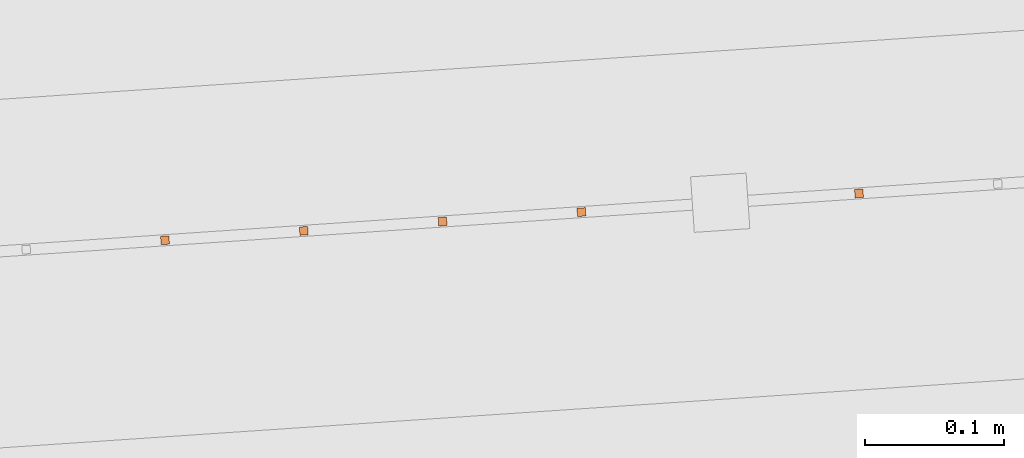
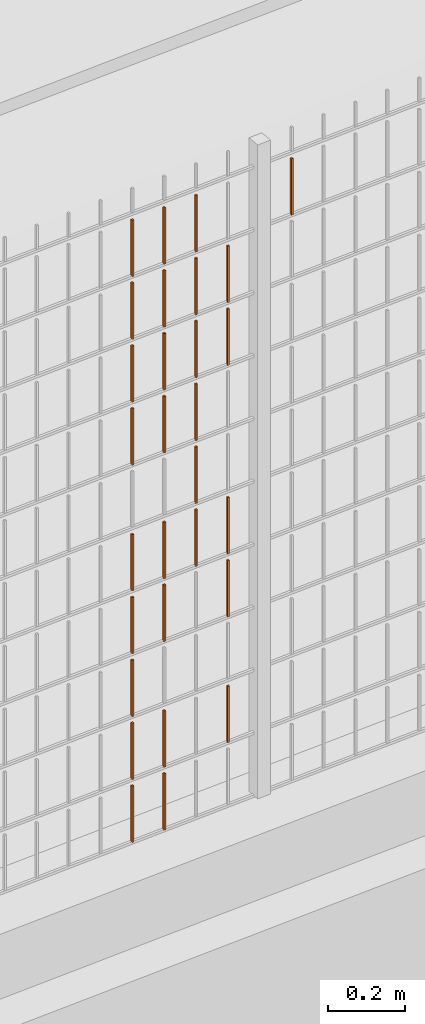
# One storey, part 270 of 1809: 29 proxies, 1 element without a shape of its own.
"""IFC2X3 building model written with IfcOpenShell, lengths in millimetres."""

from ifc_helpers import new_model, entity, si_unit, converted_unit, derived_unit, money_unit, direction, frame, origin_with_axes, place, context, subcontext, project, spatial, faceted_brep, source, transform, mapped, material, type_object, element, aggregate, save


model = new_model("IFC2X3")

# Units and contexts
model_context = context("Model", 3, precision=0.01, world=origin_with_axes(), true_north=direction((0.0, 1.0)))
body_context = subcontext(model_context, "Body", "Model", "MODEL_VIEW")
ifc_project = project(units=[si_unit("LENGTHUNIT", "METRE", prefix="MILLI"), si_unit("AREAUNIT", "SQUARE_METRE"), si_unit("VOLUMEUNIT", "CUBIC_METRE"), converted_unit("PLANEANGLEUNIT", "DEGREE", entity("IfcPlaneAngleMeasure", 0.0174532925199), si_unit("PLANEANGLEUNIT", "RADIAN"), dimensions=[0, 0, 0, 0, 0, 0, 0]), si_unit("SOLIDANGLEUNIT", "STERADIAN"), money_unit("EUR"), converted_unit("TIMEUNIT", "Year", entity("IfcTimeMeasure", 31556926.0), si_unit("TIMEUNIT", "SECOND"), dimensions=[0, 0, 1, 0, 0, 0, 0]), si_unit("MASSUNIT", "GRAM", prefix="KILO"), si_unit("THERMODYNAMICTEMPERATUREUNIT", "DEGREE_CELSIUS"), si_unit("LUMINOUSINTENSITYUNIT", "LUMEN"), si_unit("ENERGYUNIT", "JOULE", prefix="MEGA"), derived_unit("THERMALCONDUCTANCEUNIT", [(si_unit("POWERUNIT", "WATT"), 1), (si_unit("LENGTHUNIT", "METRE"), -1), (si_unit("THERMODYNAMICTEMPERATUREUNIT", "KELVIN"), -1)]), derived_unit("SPECIFICHEATCAPACITYUNIT", [(si_unit("ENERGYUNIT", "JOULE"), 1), (si_unit("MASSUNIT", "GRAM", prefix="KILO"), -1), (si_unit("THERMODYNAMICTEMPERATUREUNIT", "KELVIN"), -1)]), derived_unit("MASSDENSITYUNIT", [(si_unit("MASSUNIT", "GRAM", prefix="KILO"), 1), (si_unit("VOLUMEUNIT", "CUBIC_METRE"), -1)])], contexts=[model_context])

# Site, building, storey
site_placement = place(None, origin_with_axes())
site = spatial("IfcSite", under=ifc_project, at=site_placement, Name="Politse- ja Piirivalveameti ning Päästeameti ühishoone", CompositionType="ELEMENT")
building_placement = place(site_placement, origin_with_axes())
building = spatial("IfcBuilding", under=site, at=building_placement, Name="Politse- ja Piirivalveameti ning Päästeameti ühishoone", CompositionType="ELEMENT")
storey_placement = place(building_placement, origin_with_axes())
storey = spatial("IfcBuildingStorey", under=building, at=storey_placement, Name="Esimene korrus", CompositionType="ELEMENT", Elevation=0.0)

# Proxies
building_element_proxy_type_1 = type_object("IfcBuildingElementProxyType", Name="Railing Type", PredefinedType="NOTDEFINED")
proxy_1_placement = place(storey_placement, frame((89252.001212, -29183.4766571, 203.661247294), z_axis=(0.0, 0.0, 1.0), x_axis=(1.0, 0.0, 0.0)))
proxy_1 = element("IfcBuildingElementProxy", 1, at=proxy_1_placement, inside=storey, type_object=building_element_proxy_type_1, Name="PIIRDEAED")
ifc_material = material(Name="ET-03_Raud")
building_element_proxy_type_2 = type_object("IfcBuildingElementProxyType", Name="IfcBuildingElementProxy", PredefinedType="NOTDEFINED")
shared_shape_1 = source(origin_with_axes(), body_context, "Body", "Brep", [
    faceted_brep([(3.0, 3.0, -0.000752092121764), (-3.0, 3.0, -0.000752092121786), (-3.0, 3.0, 179.99926046), (3.0, 3.0, 179.99926046), (3.0, -3.0, 0.000752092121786), (-3.0, -3.0, 0.000752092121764), (-3.0, -3.0, 180.000764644), (3.0, -3.0, 180.000764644)], [[[0, 1, 2, 3]], [[0, 4, 5, 1]], [[1, 5, 6, 2]], [[3, 2, 6, 7]], [[4, 0, 3, 7]], [[5, 4, 7, 6]]]),
])
proxy_2_placement = place(proxy_1_placement, frame((-55101.1317641, -21019.6482681, 13.389199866), z_axis=(0.0, 0.0, 1.0), x_axis=(1.0, 0.0, 0.0)))
proxy_2 = element("IfcBuildingElementProxy", 2, at=proxy_2_placement, type_object=building_element_proxy_type_2, material=ifc_material, Name="BALUSTER - 001", context=body_context, shape_type="MappedRepresentation", body=[
    mapped(shared_shape_1, transform((0.0, 0.0, 0.0), x_axis=(-0.0673926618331, 0.997726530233, 0.0), y_axis=(-0.997726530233, -0.0673926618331, 0.0), z_axis=(0.0, 0.0, 1.0))),
])
proxy_3_placement = place(proxy_1_placement, frame((-55101.1317641, -21019.6482681, 213.389199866), z_axis=(0.0, 0.0, 1.0), x_axis=(1.0, 0.0, 0.0)))
proxy_3 = element("IfcBuildingElementProxy", 3, at=proxy_3_placement, type_object=building_element_proxy_type_2, material=ifc_material, Name="BALUSTER - 001", context=body_context, shape_type="MappedRepresentation", body=[
    mapped(shared_shape_1, transform((0.0, 0.0, 0.0), x_axis=(-0.0673926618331, 0.997726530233, 0.0), y_axis=(-0.997726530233, -0.0673926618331, 0.0), z_axis=(0.0, 0.0, 1.0))),
])
shared_shape_2 = source(origin_with_axes(), body_context, "Body", "Brep", [
    faceted_brep([(3.0, 3.0, -0.000752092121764), (-3.0, 3.0, -0.000752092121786), (-3.0, 3.0, 179.99926046), (3.0, 3.0, 179.99926046), (3.0, -3.0, 0.000752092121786), (-3.0, -3.0, 0.000752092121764), (-3.0, -3.0, 180.000764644), (3.0, -3.0, 180.000764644)], [[[0, 1, 2, 3]], [[0, 4, 5, 1]], [[1, 5, 6, 2]], [[3, 2, 6, 7]], [[4, 0, 3, 7]], [[5, 4, 7, 6]]]),
])
proxy_4_placement = place(proxy_1_placement, frame((-55101.1317641, -21019.6482681, 613.389199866), z_axis=(0.0, 0.0, 1.0), x_axis=(1.0, 0.0, 0.0)))
proxy_4 = element("IfcBuildingElementProxy", 4, at=proxy_4_placement, type_object=building_element_proxy_type_2, material=ifc_material, Name="BALUSTER - 001", context=body_context, shape_type="MappedRepresentation", body=[
    mapped(shared_shape_2, transform((0.0, 0.0, 0.0), x_axis=(-0.0673926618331, 0.997726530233, 0.0), y_axis=(-0.997726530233, -0.0673926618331, 0.0), z_axis=(0.0, 0.0, 1.0))),
])
proxy_5_placement = place(proxy_1_placement, frame((-55101.1317641, -21019.6482681, 813.389199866), z_axis=(0.0, 0.0, 1.0), x_axis=(1.0, 0.0, 0.0)))
proxy_5 = element("IfcBuildingElementProxy", 5, at=proxy_5_placement, type_object=building_element_proxy_type_2, material=ifc_material, Name="BALUSTER - 001", context=body_context, shape_type="MappedRepresentation", body=[
    mapped(shared_shape_2, transform((0.0, 0.0, 0.0), x_axis=(-0.0673926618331, 0.997726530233, 0.0), y_axis=(-0.997726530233, -0.0673926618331, 0.0), z_axis=(0.0, 0.0, 1.0))),
])
shared_shape_3 = source(origin_with_axes(), body_context, "Body", "Brep", [
    faceted_brep([(3.0, 3.0, -0.000752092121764), (-3.0, 3.0, -0.000752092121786), (-3.0, 3.0, 179.99926046), (3.0, 3.0, 179.99926046), (3.0, -3.0, 0.000752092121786), (-3.0, -3.0, 0.000752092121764), (-3.0, -3.0, 180.000764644), (3.0, -3.0, 180.000764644)], [[[0, 1, 2, 3]], [[0, 4, 5, 1]], [[1, 5, 6, 2]], [[3, 2, 6, 7]], [[4, 0, 3, 7]], [[5, 4, 7, 6]]]),
])
proxy_6_placement = place(proxy_1_placement, frame((-55101.1317641, -21019.6482681, 413.389199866), z_axis=(0.0, 0.0, 1.0), x_axis=(1.0, 0.0, 0.0)))
proxy_6 = element("IfcBuildingElementProxy", 6, at=proxy_6_placement, type_object=building_element_proxy_type_2, material=ifc_material, Name="BALUSTER - 001", context=body_context, shape_type="MappedRepresentation", body=[
    mapped(shared_shape_3, transform((0.0, 0.0, 0.0), x_axis=(-0.0673926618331, 0.997726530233, 0.0), y_axis=(-0.997726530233, -0.0673926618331, 0.0), z_axis=(0.0, 0.0, 1.0))),
])
shared_shape_4 = source(origin_with_axes(), body_context, "Body", "Brep", [
    faceted_brep([(3.0, 3.0, -0.000752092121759), (-3.0, 3.0, -0.00075209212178), (-3.0, 3.0, 179.99926046), (3.0, 3.0, 179.99926046), (3.0, -3.0, 0.00075209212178), (-3.0, -3.0, 0.000752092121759), (-3.0, -3.0, 180.000764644), (3.0, -3.0, 180.000764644)], [[[0, 1, 2, 3]], [[0, 4, 5, 1]], [[1, 5, 6, 2]], [[3, 2, 6, 7]], [[4, 0, 3, 7]], [[5, 4, 7, 6]]]),
])
proxy_7_placement = place(proxy_1_placement, frame((-55001.359111, -21012.9090019, 1213.4142696), z_axis=(0.0, 0.0, 1.0), x_axis=(1.0, 0.0, 0.0)))
proxy_7 = element("IfcBuildingElementProxy", 7, at=proxy_7_placement, type_object=building_element_proxy_type_2, material=ifc_material, Name="BALUSTER - 001", context=body_context, shape_type="MappedRepresentation", body=[
    mapped(shared_shape_4, transform((0.0, 0.0, 0.0), x_axis=(-0.0673926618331, 0.997726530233, 0.0), y_axis=(-0.997726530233, -0.0673926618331, 0.0), z_axis=(0.0, 0.0, 1.0))),
])
shared_shape_5 = source(origin_with_axes(), body_context, "Body", "Brep", [
    faceted_brep([(3.0, 3.0, -0.000752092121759), (-3.0, 3.0, -0.00075209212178), (-3.0, 3.0, 179.99926046), (3.0, 3.0, 179.99926046), (3.0, -3.0, 0.00075209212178), (-3.0, -3.0, 0.000752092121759), (-3.0, -3.0, 180.000764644), (3.0, -3.0, 180.000764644)], [[[0, 1, 2, 3]], [[0, 4, 5, 1]], [[1, 5, 6, 2]], [[3, 2, 6, 7]], [[4, 0, 3, 7]], [[5, 4, 7, 6]]]),
])
proxy_8_placement = place(proxy_1_placement, frame((-55101.1317641, -21019.6482681, 1213.38919987), z_axis=(0.0, 0.0, 1.0), x_axis=(1.0, 0.0, 0.0)))
proxy_8 = element("IfcBuildingElementProxy", 8, at=proxy_8_placement, type_object=building_element_proxy_type_2, material=ifc_material, Name="BALUSTER - 001", context=body_context, shape_type="MappedRepresentation", body=[
    mapped(shared_shape_5, transform((0.0, 0.0, 0.0), x_axis=(-0.0673926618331, 0.997726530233, 0.0), y_axis=(-0.997726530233, -0.0673926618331, 0.0), z_axis=(0.0, 0.0, 1.0))),
])
proxy_9_placement = place(proxy_1_placement, frame((-55001.359111, -21012.9090019, 1813.4142696), z_axis=(0.0, 0.0, 1.0), x_axis=(1.0, 0.0, 0.0)))
proxy_9 = element("IfcBuildingElementProxy", 9, at=proxy_9_placement, type_object=building_element_proxy_type_2, material=ifc_material, Name="BALUSTER - 001", context=body_context, shape_type="MappedRepresentation", body=[
    mapped(shared_shape_5, transform((0.0, 0.0, 0.0), x_axis=(-0.0673926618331, 0.997726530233, 0.0), y_axis=(-0.997726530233, -0.0673926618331, 0.0), z_axis=(0.0, 0.0, 1.0))),
])
shared_shape_6 = source(origin_with_axes(), body_context, "Body", "Brep", [
    faceted_brep([(3.0, 3.0, -0.000752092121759), (-3.0, 3.0, -0.00075209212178), (-3.0, 3.0, 179.99926046), (3.0, 3.0, 179.99926046), (3.0, -3.0, 0.00075209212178), (-3.0, -3.0, 0.000752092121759), (-3.0, -3.0, 180.000764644), (3.0, -3.0, 180.000764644)], [[[0, 1, 2, 3]], [[0, 4, 5, 1]], [[1, 5, 6, 2]], [[3, 2, 6, 7]], [[4, 0, 3, 7]], [[5, 4, 7, 6]]]),
])
proxy_10_placement = place(proxy_1_placement, frame((-55101.1317641, -21019.6482681, 1813.38919987), z_axis=(0.0, 0.0, 1.0), x_axis=(1.0, 0.0, 0.0)))
proxy_10 = element("IfcBuildingElementProxy", 10, at=proxy_10_placement, type_object=building_element_proxy_type_2, material=ifc_material, Name="BALUSTER - 001", context=body_context, shape_type="MappedRepresentation", body=[
    mapped(shared_shape_6, transform((0.0, 0.0, 0.0), x_axis=(-0.0673926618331, 0.997726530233, 0.0), y_axis=(-0.997726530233, -0.0673926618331, 0.0), z_axis=(0.0, 0.0, 1.0))),
])
shared_shape_7 = source(origin_with_axes(), body_context, "Body", "Brep", [
    faceted_brep([(3.0, 3.0, -0.000752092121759), (-3.0, 3.0, -0.00075209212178), (-3.0, 3.0, 179.99926046), (3.0, 3.0, 179.99926046), (3.0, -3.0, 0.00075209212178), (-3.0, -3.0, 0.000752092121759), (-3.0, -3.0, 180.000764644), (3.0, -3.0, 180.000764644)], [[[0, 1, 2, 3]], [[0, 4, 5, 1]], [[1, 5, 6, 2]], [[3, 2, 6, 7]], [[4, 0, 3, 7]], [[5, 4, 7, 6]]]),
])
proxy_11_placement = place(proxy_1_placement, frame((-54602.2684989, -20985.9519372, 1813.51454855), z_axis=(0.0, 0.0, 1.0), x_axis=(1.0, 0.0, 0.0)))
proxy_11 = element("IfcBuildingElementProxy", 11, at=proxy_11_placement, type_object=building_element_proxy_type_2, material=ifc_material, Name="BALUSTER - 001", context=body_context, shape_type="MappedRepresentation", body=[
    mapped(shared_shape_7, transform((0.0, 0.0, 0.0), x_axis=(-0.0673926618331, 0.997726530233, 0.0), y_axis=(-0.997726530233, -0.0673926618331, 0.0), z_axis=(0.0, 0.0, 1.0))),
])
shared_shape_8 = source(origin_with_axes(), body_context, "Body", "Brep", [
    faceted_brep([(3.0, 3.0, -0.000752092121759), (-3.0, 3.0, -0.00075209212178), (-3.0, 3.0, 179.99926046), (3.0, 3.0, 179.99926046), (3.0, -3.0, 0.00075209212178), (-3.0, -3.0, 0.000752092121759), (-3.0, -3.0, 180.000764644), (3.0, -3.0, 180.000764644)], [[[0, 1, 2, 3]], [[0, 4, 5, 1]], [[1, 5, 6, 2]], [[3, 2, 6, 7]], [[4, 0, 3, 7]], [[5, 4, 7, 6]]]),
])
proxy_12_placement = place(proxy_1_placement, frame((-55001.359111, -21012.9090019, 13.4142696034), z_axis=(0.0, 0.0, 1.0), x_axis=(1.0, 0.0, 0.0)))
proxy_12 = element("IfcBuildingElementProxy", 12, at=proxy_12_placement, type_object=building_element_proxy_type_2, material=ifc_material, Name="BALUSTER - 001", context=body_context, shape_type="MappedRepresentation", body=[
    mapped(shared_shape_8, transform((0.0, 0.0, 0.0), x_axis=(-0.0673926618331, 0.997726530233, 0.0), y_axis=(-0.997726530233, -0.0673926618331, 0.0), z_axis=(0.0, 0.0, 1.0))),
])
proxy_13_placement = place(proxy_1_placement, frame((-55001.359111, -21012.9090019, 213.414269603), z_axis=(0.0, 0.0, 1.0), x_axis=(1.0, 0.0, 0.0)))
proxy_13 = element("IfcBuildingElementProxy", 13, at=proxy_13_placement, type_object=building_element_proxy_type_2, material=ifc_material, Name="BALUSTER - 001", context=body_context, shape_type="MappedRepresentation", body=[
    mapped(shared_shape_8, transform((0.0, 0.0, 0.0), x_axis=(-0.0673926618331, 0.997726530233, 0.0), y_axis=(-0.997726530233, -0.0673926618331, 0.0), z_axis=(0.0, 0.0, 1.0))),
])
shared_shape_9 = source(origin_with_axes(), body_context, "Body", "Brep", [
    faceted_brep([(3.0, 3.0, -0.000752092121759), (-3.0, 3.0, -0.000752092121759), (-3.0, 3.0, 179.99926046), (3.0, 3.0, 179.99926046), (3.0, -3.0, 0.000752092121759), (-3.0, -3.0, 0.000752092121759), (-3.0, -3.0, 180.000764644), (3.0, -3.0, 180.000764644)], [[[0, 1, 2, 3]], [[0, 4, 5, 1]], [[1, 5, 6, 2]], [[3, 2, 6, 7]], [[4, 0, 3, 7]], [[5, 4, 7, 6]]]),
])
proxy_14_placement = place(proxy_1_placement, frame((-54801.813805, -20999.4304695, 213.464409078), z_axis=(0.0, 0.0, 1.0), x_axis=(1.0, 0.0, 0.0)))
proxy_14 = element("IfcBuildingElementProxy", 14, at=proxy_14_placement, type_object=building_element_proxy_type_2, material=ifc_material, Name="BALUSTER - 001", context=body_context, shape_type="MappedRepresentation", body=[
    mapped(shared_shape_9, transform((0.0, 0.0, 0.0), x_axis=(-0.0673926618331, 0.997726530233, 0.0), y_axis=(-0.997726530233, -0.0673926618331, 0.0), z_axis=(0.0, 0.0, 1.0))),
])
proxy_15_placement = place(proxy_1_placement, frame((-54801.813805, -20999.4304695, 613.464409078), z_axis=(0.0, 0.0, 1.0), x_axis=(1.0, 0.0, 0.0)))
proxy_15 = element("IfcBuildingElementProxy", 15, at=proxy_15_placement, type_object=building_element_proxy_type_2, material=ifc_material, Name="BALUSTER - 001", context=body_context, shape_type="MappedRepresentation", body=[
    mapped(shared_shape_9, transform((0.0, 0.0, 0.0), x_axis=(-0.0673926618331, 0.997726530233, 0.0), y_axis=(-0.997726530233, -0.0673926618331, 0.0), z_axis=(0.0, 0.0, 1.0))),
])
shared_shape_10 = source(origin_with_axes(), body_context, "Body", "Brep", [
    faceted_brep([(3.0, 3.0, -0.000752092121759), (-3.0, 3.0, -0.00075209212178), (-3.0, 3.0, 179.99926046), (3.0, 3.0, 179.99926046), (3.0, -3.0, 0.00075209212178), (-3.0, -3.0, 0.000752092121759), (-3.0, -3.0, 180.000764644), (3.0, -3.0, 180.000764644)], [[[0, 1, 2, 3]], [[0, 4, 5, 1]], [[1, 5, 6, 2]], [[3, 2, 6, 7]], [[4, 0, 3, 7]], [[5, 4, 7, 6]]]),
])
proxy_16_placement = place(proxy_1_placement, frame((-55001.359111, -21012.9090019, 613.414269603), z_axis=(0.0, 0.0, 1.0), x_axis=(1.0, 0.0, 0.0)))
proxy_16 = element("IfcBuildingElementProxy", 16, at=proxy_16_placement, type_object=building_element_proxy_type_2, material=ifc_material, Name="BALUSTER - 001", context=body_context, shape_type="MappedRepresentation", body=[
    mapped(shared_shape_10, transform((0.0, 0.0, 0.0), x_axis=(-0.0673926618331, 0.997726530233, 0.0), y_axis=(-0.997726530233, -0.0673926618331, 0.0), z_axis=(0.0, 0.0, 1.0))),
])
proxy_17_placement = place(proxy_1_placement, frame((-55001.359111, -21012.9090019, 813.414269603), z_axis=(0.0, 0.0, 1.0), x_axis=(1.0, 0.0, 0.0)))
proxy_17 = element("IfcBuildingElementProxy", 17, at=proxy_17_placement, type_object=building_element_proxy_type_2, material=ifc_material, Name="BALUSTER - 001", context=body_context, shape_type="MappedRepresentation", body=[
    mapped(shared_shape_10, transform((0.0, 0.0, 0.0), x_axis=(-0.0673926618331, 0.997726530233, 0.0), y_axis=(-0.997726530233, -0.0673926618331, 0.0), z_axis=(0.0, 0.0, 1.0))),
])
shared_shape_11 = source(origin_with_axes(), body_context, "Body", "Brep", [
    faceted_brep([(3.0, 3.0, -0.000752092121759), (-3.0, 3.0, -0.000752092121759), (-3.0, 3.0, 179.99926046), (3.0, 3.0, 179.99926046), (3.0, -3.0, 0.000752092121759), (-3.0, -3.0, 0.000752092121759), (-3.0, -3.0, 180.000764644), (3.0, -3.0, 180.000764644)], [[[0, 1, 2, 3]], [[0, 4, 5, 1]], [[1, 5, 6, 2]], [[3, 2, 6, 7]], [[4, 0, 3, 7]], [[5, 4, 7, 6]]]),
])
proxy_18_placement = place(proxy_1_placement, frame((-54801.813805, -20999.4304695, 813.464409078), z_axis=(0.0, 0.0, 1.0), x_axis=(1.0, 0.0, 0.0)))
proxy_18 = element("IfcBuildingElementProxy", 18, at=proxy_18_placement, type_object=building_element_proxy_type_2, material=ifc_material, Name="BALUSTER - 001", context=body_context, shape_type="MappedRepresentation", body=[
    mapped(shared_shape_11, transform((0.0, 0.0, 0.0), x_axis=(-0.0673926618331, 0.997726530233, 0.0), y_axis=(-0.997726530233, -0.0673926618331, 0.0), z_axis=(0.0, 0.0, 1.0))),
])
proxy_19_placement = place(proxy_1_placement, frame((-54901.586458, -21006.1697357, 1213.43933934), z_axis=(0.0, 0.0, 1.0), x_axis=(1.0, 0.0, 0.0)))
proxy_19 = element("IfcBuildingElementProxy", 19, at=proxy_19_placement, type_object=building_element_proxy_type_2, material=ifc_material, Name="BALUSTER - 001", context=body_context, shape_type="MappedRepresentation", body=[
    mapped(shared_shape_11, transform((0.0, 0.0, 0.0), x_axis=(-0.0673926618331, 0.997726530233, 0.0), y_axis=(-0.997726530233, -0.0673926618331, 0.0), z_axis=(0.0, 0.0, 1.0))),
])
shared_shape_12 = source(origin_with_axes(), body_context, "Body", "Brep", [
    faceted_brep([(3.0, 3.0, -0.000752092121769), (-3.0, 3.0, -0.00075209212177), (-3.0, 3.0, 179.99926046), (3.0, 3.0, 179.99926046), (3.0, -3.0, 0.00075209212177), (-3.0, -3.0, 0.000752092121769), (-3.0, -3.0, 180.000764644), (3.0, -3.0, 180.000764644)], [[[0, 1, 2, 3]], [[0, 4, 5, 1]], [[1, 5, 6, 2]], [[3, 2, 6, 7]], [[4, 0, 3, 7]], [[5, 4, 7, 6]]]),
])
proxy_20_placement = place(proxy_1_placement, frame((-54901.586458, -21006.1697357, 813.439339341), z_axis=(0.0, 0.0, 1.0), x_axis=(1.0, 0.0, 0.0)))
proxy_20 = element("IfcBuildingElementProxy", 20, at=proxy_20_placement, type_object=building_element_proxy_type_2, material=ifc_material, Name="BALUSTER - 001", context=body_context, shape_type="MappedRepresentation", body=[
    mapped(shared_shape_12, transform((0.0, 0.0, 0.0), x_axis=(-0.0673926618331, 0.997726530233, 0.0), y_axis=(-0.997726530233, -0.0673926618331, 0.0), z_axis=(0.0, 0.0, 1.0))),
])
shared_shape_13 = source(origin_with_axes(), body_context, "Body", "Brep", [
    faceted_brep([(3.0, 3.0, -0.000752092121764), (-3.0, 3.0, -0.000752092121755), (-3.00000000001, 3.00000000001, 179.99926046), (2.99999999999, 3.00000000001, 179.99926046), (3.0, -3.0, 0.000752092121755), (-3.0, -3.0, 0.000752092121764), (-3.00000000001, -2.99999999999, 180.000764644), (2.99999999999, -2.99999999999, 180.000764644)], [[[0, 1, 2, 3]], [[0, 4, 5, 1]], [[1, 5, 6, 2]], [[3, 2, 6, 7]], [[4, 0, 3, 7]], [[5, 4, 7, 6]]]),
])
proxy_21_placement = place(proxy_1_placement, frame((-54901.586458, -21006.1697357, 1013.43933934), z_axis=(0.0, 0.0, 1.0), x_axis=(1.0, 0.0, 0.0)))
proxy_21 = element("IfcBuildingElementProxy", 21, at=proxy_21_placement, type_object=building_element_proxy_type_2, material=ifc_material, Name="BALUSTER - 001", context=body_context, shape_type="MappedRepresentation", body=[
    mapped(shared_shape_13, transform((0.0, 0.0, 0.0), x_axis=(-0.0673926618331, 0.997726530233, 0.0), y_axis=(-0.997726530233, -0.0673926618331, 0.0), z_axis=(0.0, 0.0, 1.0))),
])
shared_shape_14 = source(origin_with_axes(), body_context, "Body", "Brep", [
    faceted_brep([(3.0, 3.0, -0.000752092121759), (-3.0, 3.0, -0.000752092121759), (-3.0, 3.0, 179.99926046), (3.0, 3.0, 179.99926046), (3.0, -3.0, 0.000752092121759), (-3.0, -3.0, 0.000752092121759), (-3.0, -3.0, 180.000764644), (3.0, -3.0, 180.000764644)], [[[0, 1, 2, 3]], [[0, 4, 5, 1]], [[1, 5, 6, 2]], [[3, 2, 6, 7]], [[4, 0, 3, 7]], [[5, 4, 7, 6]]]),
])
proxy_22_placement = place(proxy_1_placement, frame((-54901.586458, -21006.1697357, 1813.43933934), z_axis=(0.0, 0.0, 1.0), x_axis=(1.0, 0.0, 0.0)))
proxy_22 = element("IfcBuildingElementProxy", 22, at=proxy_22_placement, type_object=building_element_proxy_type_2, material=ifc_material, Name="BALUSTER - 001", context=body_context, shape_type="MappedRepresentation", body=[
    mapped(shared_shape_14, transform((0.0, 0.0, 0.0), x_axis=(-0.0673926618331, 0.997726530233, 0.0), y_axis=(-0.997726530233, -0.0673926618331, 0.0), z_axis=(0.0, 0.0, 1.0))),
])
shared_shape_15 = source(origin_with_axes(), body_context, "Body", "Brep", [
    faceted_brep([(3.0, 3.0, -0.000752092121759), (-3.0, 3.0, -0.00075209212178), (-3.0, 3.0, 179.99926046), (3.0, 3.0, 179.99926046), (3.0, -3.0, 0.00075209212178), (-3.0, -3.0, 0.000752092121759), (-3.0, -3.0, 180.000764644), (3.0, -3.0, 180.000764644)], [[[0, 1, 2, 3]], [[0, 4, 5, 1]], [[1, 5, 6, 2]], [[3, 2, 6, 7]], [[4, 0, 3, 7]], [[5, 4, 7, 6]]]),
])
proxy_23_placement = place(proxy_1_placement, frame((-54801.813805, -20999.4304695, 1413.46440908), z_axis=(0.0, 0.0, 1.0), x_axis=(1.0, 0.0, 0.0)))
proxy_23 = element("IfcBuildingElementProxy", 23, at=proxy_23_placement, type_object=building_element_proxy_type_2, material=ifc_material, Name="BALUSTER - 001", context=body_context, shape_type="MappedRepresentation", body=[
    mapped(shared_shape_15, transform((0.0, 0.0, 0.0), x_axis=(-0.0673926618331, 0.997726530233, 0.0), y_axis=(-0.997726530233, -0.0673926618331, 0.0), z_axis=(0.0, 0.0, 1.0))),
])
proxy_24_placement = place(proxy_1_placement, frame((-54801.813805, -20999.4304695, 1613.46440908), z_axis=(0.0, 0.0, 1.0), x_axis=(1.0, 0.0, 0.0)))
proxy_24 = element("IfcBuildingElementProxy", 24, at=proxy_24_placement, type_object=building_element_proxy_type_2, material=ifc_material, Name="BALUSTER - 001", context=body_context, shape_type="MappedRepresentation", body=[
    mapped(shared_shape_15, transform((0.0, 0.0, 0.0), x_axis=(-0.0673926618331, 0.997726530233, 0.0), y_axis=(-0.997726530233, -0.0673926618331, 0.0), z_axis=(0.0, 0.0, 1.0))),
])
shared_shape_16 = source(origin_with_axes(), body_context, "Body", "Brep", [
    faceted_brep([(3.0, 3.0, -0.000752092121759), (-3.0, 3.0, -0.000752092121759), (-3.0, 3.0, 179.99926046), (3.0, 3.0, 179.99926046), (3.0, -3.0, 0.000752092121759), (-3.0, -3.0, 0.000752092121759), (-3.0, -3.0, 180.000764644), (3.0, -3.0, 180.000764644)], [[[0, 1, 2, 3]], [[0, 4, 5, 1]], [[1, 5, 6, 2]], [[3, 2, 6, 7]], [[4, 0, 3, 7]], [[5, 4, 7, 6]]]),
])
proxy_25_placement = place(proxy_1_placement, frame((-54901.586458, -21006.1697357, 1413.43933934), z_axis=(0.0, 0.0, 1.0), x_axis=(1.0, 0.0, 0.0)))
proxy_25 = element("IfcBuildingElementProxy", 25, at=proxy_25_placement, type_object=building_element_proxy_type_2, material=ifc_material, Name="BALUSTER - 001", context=body_context, shape_type="MappedRepresentation", body=[
    mapped(shared_shape_16, transform((0.0, 0.0, 0.0), x_axis=(-0.0673926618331, 0.997726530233, 0.0), y_axis=(-0.997726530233, -0.0673926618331, 0.0), z_axis=(0.0, 0.0, 1.0))),
])
proxy_26_placement = place(proxy_1_placement, frame((-54901.586458, -21006.1697357, 1613.43933934), z_axis=(0.0, 0.0, 1.0), x_axis=(1.0, 0.0, 0.0)))
proxy_26 = element("IfcBuildingElementProxy", 26, at=proxy_26_placement, type_object=building_element_proxy_type_2, material=ifc_material, Name="BALUSTER - 001", context=body_context, shape_type="MappedRepresentation", body=[
    mapped(shared_shape_16, transform((0.0, 0.0, 0.0), x_axis=(-0.0673926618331, 0.997726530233, 0.0), y_axis=(-0.997726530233, -0.0673926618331, 0.0), z_axis=(0.0, 0.0, 1.0))),
])
shared_shape_17 = source(origin_with_axes(), body_context, "Body", "Brep", [
    faceted_brep([(3.0, 3.0, -0.000752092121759), (-3.0, 3.0, -0.00075209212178), (-3.0, 3.0, 179.99926046), (3.0, 3.0, 179.99926046), (3.0, -3.0, 0.00075209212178), (-3.0, -3.0, 0.000752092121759), (-3.0, -3.0, 180.000764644), (3.0, -3.0, 180.000764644)], [[[0, 1, 2, 3]], [[0, 4, 5, 1]], [[1, 5, 6, 2]], [[3, 2, 6, 7]], [[4, 0, 3, 7]], [[5, 4, 7, 6]]]),
])
proxy_27_placement = place(proxy_1_placement, frame((-55001.359111, -21012.9090019, 1413.4142696), z_axis=(0.0, 0.0, 1.0), x_axis=(1.0, 0.0, 0.0)))
proxy_27 = element("IfcBuildingElementProxy", 27, at=proxy_27_placement, type_object=building_element_proxy_type_2, material=ifc_material, Name="BALUSTER - 001", context=body_context, shape_type="MappedRepresentation", body=[
    mapped(shared_shape_17, transform((0.0, 0.0, 0.0), x_axis=(-0.0673926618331, 0.997726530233, 0.0), y_axis=(-0.997726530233, -0.0673926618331, 0.0), z_axis=(0.0, 0.0, 1.0))),
])
proxy_28_placement = place(proxy_1_placement, frame((-55001.359111, -21012.9090019, 1613.4142696), z_axis=(0.0, 0.0, 1.0), x_axis=(1.0, 0.0, 0.0)))
proxy_28 = element("IfcBuildingElementProxy", 28, at=proxy_28_placement, type_object=building_element_proxy_type_2, material=ifc_material, Name="BALUSTER - 001", context=body_context, shape_type="MappedRepresentation", body=[
    mapped(shared_shape_17, transform((0.0, 0.0, 0.0), x_axis=(-0.0673926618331, 0.997726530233, 0.0), y_axis=(-0.997726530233, -0.0673926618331, 0.0), z_axis=(0.0, 0.0, 1.0))),
])
shared_shape_18 = source(origin_with_axes(), body_context, "Body", "Brep", [
    faceted_brep([(3.0, 3.0, -0.000752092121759), (-3.0, 3.0, -0.00075209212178), (-3.0, 3.0, 179.99926046), (3.0, 3.0, 179.99926046), (3.0, -3.0, 0.00075209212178), (-3.0, -3.0, 0.000752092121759), (-3.0, -3.0, 180.000764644), (3.0, -3.0, 180.000764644)], [[[0, 1, 2, 3]], [[0, 4, 5, 1]], [[1, 5, 6, 2]], [[3, 2, 6, 7]], [[4, 0, 3, 7]], [[5, 4, 7, 6]]]),
])
proxy_29_placement = place(proxy_1_placement, frame((-55101.1317641, -21019.6482681, 1413.38919987), z_axis=(0.0, 0.0, 1.0), x_axis=(1.0, 0.0, 0.0)))
proxy_29 = element("IfcBuildingElementProxy", 29, at=proxy_29_placement, type_object=building_element_proxy_type_2, material=ifc_material, Name="BALUSTER - 001", context=body_context, shape_type="MappedRepresentation", body=[
    mapped(shared_shape_18, transform((0.0, 0.0, 0.0), x_axis=(-0.0673926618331, 0.997726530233, 0.0), y_axis=(-0.997726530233, -0.0673926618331, 0.0), z_axis=(0.0, 0.0, 1.0))),
])
proxy_30_placement = place(proxy_1_placement, frame((-55101.1317641, -21019.6482681, 1613.38919987), z_axis=(0.0, 0.0, 1.0), x_axis=(1.0, 0.0, 0.0)))
proxy_30 = element("IfcBuildingElementProxy", 30, at=proxy_30_placement, type_object=building_element_proxy_type_2, material=ifc_material, Name="BALUSTER - 001", context=body_context, shape_type="MappedRepresentation", body=[
    mapped(shared_shape_18, transform((0.0, 0.0, 0.0), x_axis=(-0.0673926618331, 0.997726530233, 0.0), y_axis=(-0.997726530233, -0.0673926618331, 0.0), z_axis=(0.0, 0.0, 1.0))),
])
aggregate(proxy_1, [proxy_11, proxy_12, proxy_2, proxy_14, proxy_13, proxy_3, proxy_6, proxy_15, proxy_16, proxy_4, proxy_18, proxy_20, proxy_17, proxy_5, proxy_21, proxy_19, proxy_7, proxy_8, proxy_23, proxy_25, proxy_27, proxy_29, proxy_24, proxy_26, proxy_28, proxy_30, proxy_22, proxy_9, proxy_10])

save(model, "model.ifc")
